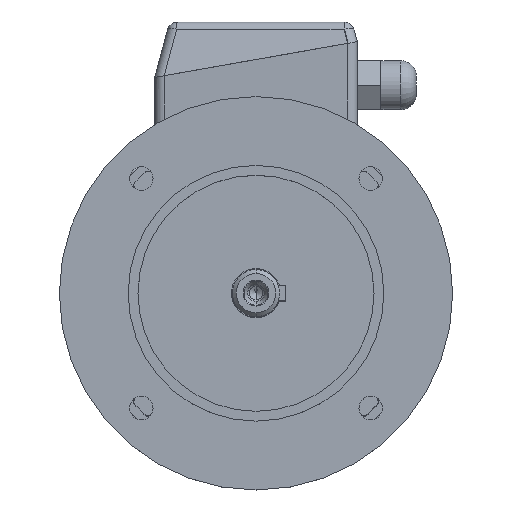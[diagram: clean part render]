
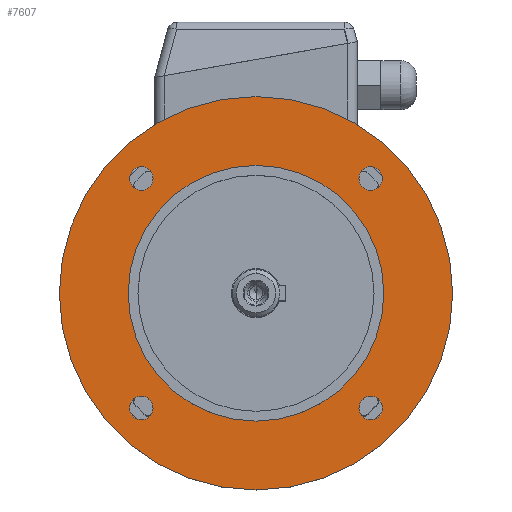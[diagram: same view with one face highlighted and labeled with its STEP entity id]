
A CAD part, top view. The second image highlights one B-rep face of the part: STEP entity #7607.
In plain terms, the highlighted planar face has unit normal (0, 0, 1).
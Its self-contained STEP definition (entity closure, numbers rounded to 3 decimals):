
#214 = ORIENTED_EDGE ( 'NONE', *, *, #9150, .F. ) ;
#834 = CIRCLE ( 'NONE', #835, 6. ) ;
#835 = AXIS2_PLACEMENT_3D ( 'NONE', #836, #837, #838 ) ;
#836 = CARTESIAN_POINT ( 'NONE',  ( -58.336, -58.336, 40. ) ) ;
#837 = DIRECTION ( 'NONE',  ( 0., 0., 1. ) ) ;
#838 = DIRECTION ( 'NONE',  ( 1., 0., 0. ) ) ;
#845 = VERTEX_POINT ( 'NONE', #9580 ) ;
#934 = CARTESIAN_POINT ( 'NONE',  ( 0., 100., 40. ) ) ;
#966 = EDGE_LOOP ( 'NONE', ( #214, #11212 ) ) ;
#1041 = CARTESIAN_POINT ( 'NONE',  ( -52.336, 58.336, 40. ) ) ;
#1086 = EDGE_CURVE ( 'NONE', #2057, #845, #9667, .T. ) ;
#1220 = CIRCLE ( 'NONE', #1221, 100. ) ;
#1221 = AXIS2_PLACEMENT_3D ( 'NONE', #1222, #1223, #1224 ) ;
#1222 = CARTESIAN_POINT ( 'NONE',  ( 0., 0., 40. ) ) ;
#1223 = DIRECTION ( 'NONE',  ( 0., 0., -1. ) ) ;
#1224 = DIRECTION ( 'NONE',  ( 0., 1., 0. ) ) ;
#1236 = EDGE_CURVE ( 'NONE', #7814, #7563, #9749, .T. ) ;
#1277 = CIRCLE ( 'NONE', #1278, 6. ) ;
#1278 = AXIS2_PLACEMENT_3D ( 'NONE', #1279, #1280, #1281 ) ;
#1279 = CARTESIAN_POINT ( 'NONE',  ( -58.336, 58.336, 40. ) ) ;
#1280 = DIRECTION ( 'NONE',  ( 0., 0., 1. ) ) ;
#1281 = DIRECTION ( 'NONE',  ( 1., 0., 0. ) ) ;
#1479 = CARTESIAN_POINT ( 'NONE',  ( 52.336, -58.336, 40. ) ) ;
#1637 = ORIENTED_EDGE ( 'NONE', *, *, #1236, .T. ) ;
#2057 = VERTEX_POINT ( 'NONE', #10064 ) ;
#2111 = CARTESIAN_POINT ( 'NONE',  ( -64.336, 58.336, 40. ) ) ;
#2202 = ORIENTED_EDGE ( 'NONE', *, *, #7606, .T. ) ;
#2550 = CIRCLE ( 'NONE', #2551, 6. ) ;
#2551 = AXIS2_PLACEMENT_3D ( 'NONE', #2552, #2553, #2554 ) ;
#2552 = CARTESIAN_POINT ( 'NONE',  ( -58.336, 58.336, 40. ) ) ;
#2553 = DIRECTION ( 'NONE',  ( 0., 0., 1. ) ) ;
#2554 = DIRECTION ( 'NONE',  ( 1., 0., 0. ) ) ;
#2774 = EDGE_LOOP ( 'NONE', ( #2202, #1637 ) ) ;
#3034 = ORIENTED_EDGE ( 'NONE', *, *, #1086, .F. ) ;
#3528 = EDGE_CURVE ( 'NONE', #845, #2057, #10730, .T. ) ;
#3598 = CARTESIAN_POINT ( 'NONE',  ( 0., 65., 40. ) ) ;
#3742 = CIRCLE ( 'NONE', #3744, 65. ) ;
#3744 = AXIS2_PLACEMENT_3D ( 'NONE', #3745, #3746, #3747 ) ;
#3745 = CARTESIAN_POINT ( 'NONE',  ( 0., 0., 40. ) ) ;
#3746 = DIRECTION ( 'NONE',  ( 0., 0., -1. ) ) ;
#3747 = DIRECTION ( 'NONE',  ( 0., 1., 0. ) ) ;
#3748 = FACE_BOUND ( 'NONE', #7559, .T. ) ;
#3749 = FACE_BOUND ( 'NONE', #9403, .T. ) ;
#3750 = FACE_BOUND ( 'NONE', #8904, .T. ) ;
#3751 = FACE_BOUND ( 'NONE', #8528, .T. ) ;
#3752 = FACE_BOUND ( 'NONE', #2774, .T. ) ;
#3753 = FACE_OUTER_BOUND ( 'NONE', #966, .T. ) ;
#3754 = PLANE ( 'NONE',  #3755 ) ;
#3755 = AXIS2_PLACEMENT_3D ( 'NONE', #3756, #3757, #3758 ) ;
#3756 = CARTESIAN_POINT ( 'NONE',  ( 0., 100., 40. ) ) ;
#3757 = DIRECTION ( 'NONE',  ( 0., 0., 1. ) ) ;
#3758 = DIRECTION ( 'NONE',  ( 0., -1., 0. ) ) ;
#4183 = CARTESIAN_POINT ( 'NONE',  ( 0., -65., 40. ) ) ;
#4444 = CIRCLE ( 'NONE', #4445, 100. ) ;
#4445 = AXIS2_PLACEMENT_3D ( 'NONE', #4446, #4447, #4448 ) ;
#4446 = CARTESIAN_POINT ( 'NONE',  ( 0., 0., 40. ) ) ;
#4447 = DIRECTION ( 'NONE',  ( 0., 0., -1. ) ) ;
#4448 = DIRECTION ( 'NONE',  ( 0., 1., 0. ) ) ;
#4474 = CARTESIAN_POINT ( 'NONE',  ( -52.336, -58.336, 40. ) ) ;
#4558 = CIRCLE ( 'NONE', #4559, 6. ) ;
#4559 = AXIS2_PLACEMENT_3D ( 'NONE', #4560, #4561, #4562 ) ;
#4560 = CARTESIAN_POINT ( 'NONE',  ( -58.336, -58.336, 40. ) ) ;
#4561 = DIRECTION ( 'NONE',  ( 0., 0., 1. ) ) ;
#4562 = DIRECTION ( 'NONE',  ( 1., 0., 0. ) ) ;
#4997 = CARTESIAN_POINT ( 'NONE',  ( -64.336, -58.336, 40. ) ) ;
#6053 = CIRCLE ( 'NONE', #6054, 6. ) ;
#6054 = AXIS2_PLACEMENT_3D ( 'NONE', #6055, #6056, #6057 ) ;
#6055 = CARTESIAN_POINT ( 'NONE',  ( 58.336, -58.336, 40. ) ) ;
#6056 = DIRECTION ( 'NONE',  ( 0., 0., 1. ) ) ;
#6057 = DIRECTION ( 'NONE',  ( 1., 0., 0. ) ) ;
#6482 = CARTESIAN_POINT ( 'NONE',  ( 64.336, -58.336, 40. ) ) ;
#6572 = CIRCLE ( 'NONE', #6573, 6. ) ;
#6573 = AXIS2_PLACEMENT_3D ( 'NONE', #6574, #6580, #6581 ) ;
#6574 = CARTESIAN_POINT ( 'NONE',  ( 58.336, -58.336, 40. ) ) ;
#6580 = DIRECTION ( 'NONE',  ( 0., 0., 1. ) ) ;
#6581 = DIRECTION ( 'NONE',  ( 1., 0., 0. ) ) ;
#6742 = CARTESIAN_POINT ( 'NONE',  ( 0., -100., 40. ) ) ;
#6981 = VERTEX_POINT ( 'NONE', #1041 ) ;
#7022 = EDGE_CURVE ( 'NONE', #7229, #6981, #1277, .T. ) ;
#7229 = VERTEX_POINT ( 'NONE', #2111 ) ;
#7328 = EDGE_CURVE ( 'NONE', #6981, #7229, #2550, .T. ) ;
#7410 = ORIENTED_EDGE ( 'NONE', *, *, #7328, .F. ) ;
#7559 = EDGE_LOOP ( 'NONE', ( #7410, #9656 ) ) ;
#7563 = VERTEX_POINT ( 'NONE', #3598 ) ;
#7606 = EDGE_CURVE ( 'NONE', #7563, #7814, #3742, .T. ) ;
#7607 = ADVANCED_FACE ( 'NONE', ( #3748, #3749, #3750, #3751, #3752, #3753 ), #3754, .T. ) ;
#7814 = VERTEX_POINT ( 'NONE', #4183 ) ;
#7931 = EDGE_CURVE ( 'NONE', #9052, #9105, #4444, .T. ) ;
#7956 = VERTEX_POINT ( 'NONE', #4474 ) ;
#7999 = EDGE_CURVE ( 'NONE', #8203, #7956, #4558, .T. ) ;
#8203 = VERTEX_POINT ( 'NONE', #4997 ) ;
#8416 = ORIENTED_EDGE ( 'NONE', *, *, #3528, .F. ) ;
#8528 = EDGE_LOOP ( 'NONE', ( #8416, #3034 ) ) ;
#8584 = ORIENTED_EDGE ( 'NONE', *, *, #8962, .F. ) ;
#8705 = EDGE_CURVE ( 'NONE', #8909, #9203, #6053, .T. ) ;
#8780 = ORIENTED_EDGE ( 'NONE', *, *, #8705, .F. ) ;
#8904 = EDGE_LOOP ( 'NONE', ( #8780, #8584 ) ) ;
#8909 = VERTEX_POINT ( 'NONE', #6482 ) ;
#8962 = EDGE_CURVE ( 'NONE', #9203, #8909, #6572, .T. ) ;
#8963 = ORIENTED_EDGE ( 'NONE', *, *, #7999, .F. ) ;
#9052 = VERTEX_POINT ( 'NONE', #6742 ) ;
#9075 = EDGE_CURVE ( 'NONE', #7956, #8203, #834, .T. ) ;
#9105 = VERTEX_POINT ( 'NONE', #934 ) ;
#9150 = EDGE_CURVE ( 'NONE', #9105, #9052, #1220, .T. ) ;
#9165 = ORIENTED_EDGE ( 'NONE', *, *, #9075, .F. ) ;
#9203 = VERTEX_POINT ( 'NONE', #1479 ) ;
#9403 = EDGE_LOOP ( 'NONE', ( #9165, #8963 ) ) ;
#9580 = CARTESIAN_POINT ( 'NONE',  ( 64.336, 58.336, 40. ) ) ;
#9656 = ORIENTED_EDGE ( 'NONE', *, *, #7022, .F. ) ;
#9667 = CIRCLE ( 'NONE', #9668, 6. ) ;
#9668 = AXIS2_PLACEMENT_3D ( 'NONE', #9669, #9670, #9671 ) ;
#9669 = CARTESIAN_POINT ( 'NONE',  ( 58.336, 58.336, 40. ) ) ;
#9670 = DIRECTION ( 'NONE',  ( 0., 0., 1. ) ) ;
#9671 = DIRECTION ( 'NONE',  ( 1., 0., 0. ) ) ;
#9749 = CIRCLE ( 'NONE', #9750, 65. ) ;
#9750 = AXIS2_PLACEMENT_3D ( 'NONE', #9751, #9752, #9753 ) ;
#9751 = CARTESIAN_POINT ( 'NONE',  ( 0., 0., 40. ) ) ;
#9752 = DIRECTION ( 'NONE',  ( 0., 0., -1. ) ) ;
#9753 = DIRECTION ( 'NONE',  ( 0., 1., 0. ) ) ;
#10064 = CARTESIAN_POINT ( 'NONE',  ( 52.336, 58.336, 40. ) ) ;
#10730 = CIRCLE ( 'NONE', #10731, 6. ) ;
#10731 = AXIS2_PLACEMENT_3D ( 'NONE', #10735, #10736, #10737 ) ;
#10735 = CARTESIAN_POINT ( 'NONE',  ( 58.336, 58.336, 40. ) ) ;
#10736 = DIRECTION ( 'NONE',  ( 0., 0., 1. ) ) ;
#10737 = DIRECTION ( 'NONE',  ( 1., 0., 0. ) ) ;
#11212 = ORIENTED_EDGE ( 'NONE', *, *, #7931, .F. ) ;
